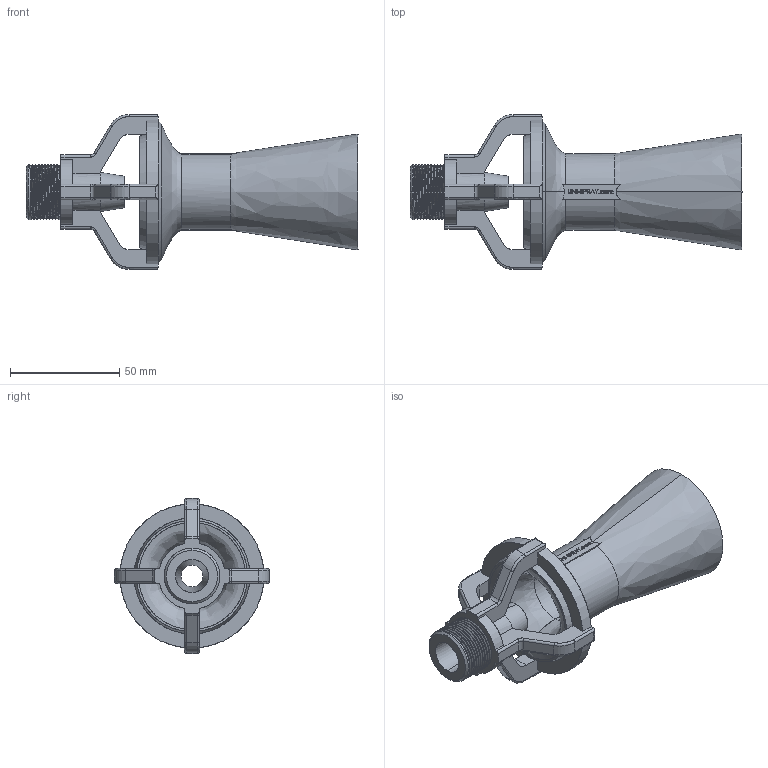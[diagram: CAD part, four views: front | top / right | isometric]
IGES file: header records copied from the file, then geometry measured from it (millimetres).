
Start section: SolidWorks IGES file using analytic representation for surfaces
Global section: file name: D:\Roztøídìné trysky\Ejektory modely\sld-modely\075 TMEEDU.IGS; native system: SolidWorks 2016; preprocessor: SolidWorks 2016; author: PC; date: 170209.111802; units: millimetre
Bounding box: 152 x 71 x 71 mm (x, y, z)
Surface area: 39292.4 mm2 (no closed solid volume)
Topology: 0 solids, 0 shells, 377 faces, 4041 edges, 4040 vertices
Faces by surface type: bspline 283, revolution 94
